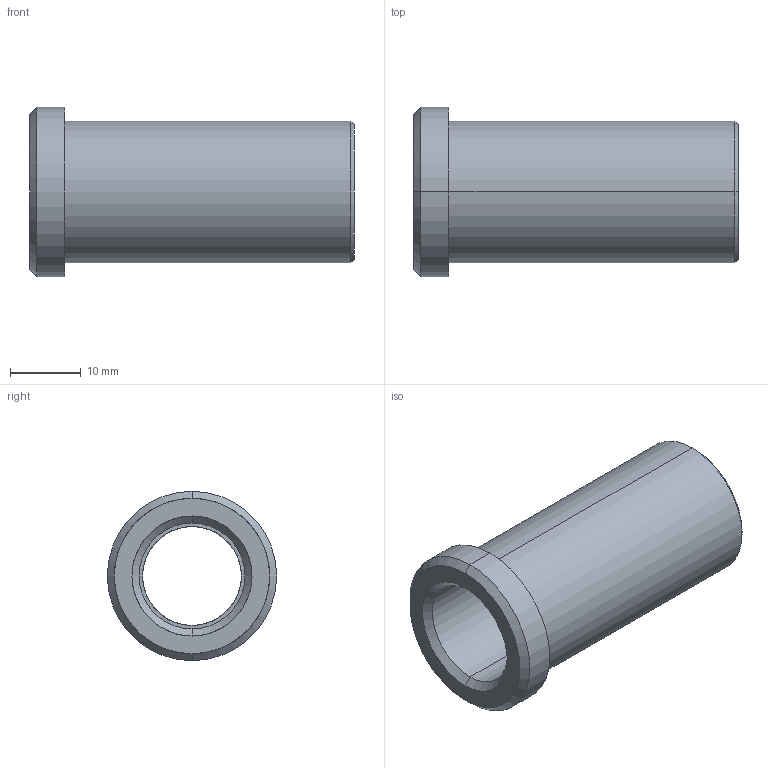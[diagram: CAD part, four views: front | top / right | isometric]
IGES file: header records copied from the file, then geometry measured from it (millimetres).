
Start section: START RECORD GO HERE.
Global section: file name: 353-14X46.igs; native system: DASSAULT SYSTEMES CATIA V5 R20 - www.3ds.com; preprocessor: CATIA Version 5 Release 20 ; author: Utente; organization: NB04-ASUS; date: 20210421.141635; units: millimetre
Bounding box: 46 x 24 x 24 mm (x, y, z)
Surface area: 5520.8 mm2 (no closed solid volume)
Topology: 0 solids, 0 shells, 20 faces, 128 edges, 128 vertices
Faces by surface type: revolution 16, plane 4
